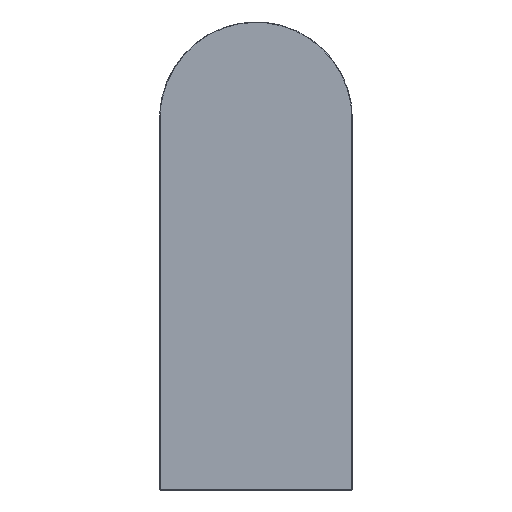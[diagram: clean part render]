
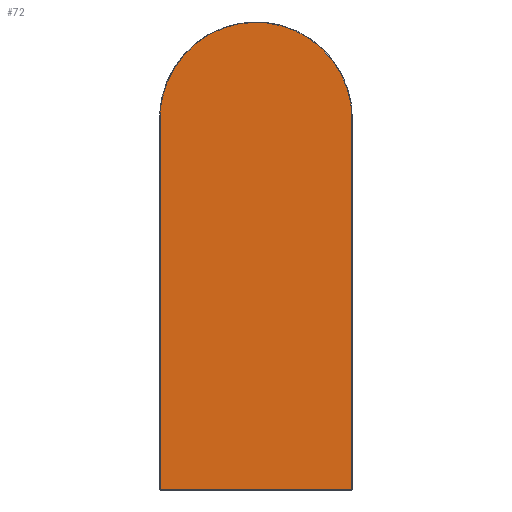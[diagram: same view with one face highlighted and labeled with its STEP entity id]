
A CAD part, front view. The second image highlights one B-rep face of the part: STEP entity #72.
In plain terms, the highlighted planar face has unit normal (0, -1, 0).
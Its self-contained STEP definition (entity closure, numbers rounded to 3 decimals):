
#31=(
BOUNDED_CURVE()
B_SPLINE_CURVE(2,(#996,#997,#998,#999,#1000),.UNSPECIFIED.,.F.,.F.)
B_SPLINE_CURVE_WITH_KNOTS((3,2,3),(0.,547.422,
1094.845),.UNSPECIFIED.)
CURVE()
GEOMETRIC_REPRESENTATION_ITEM()
RATIONAL_B_SPLINE_CURVE((1.,0.707,1.,0.707,1.))
REPRESENTATION_ITEM('')
);
#72=ADVANCED_FACE('',(#113),#484,.T.);
#113=FACE_OUTER_BOUND('',#154,.T.);
#154=EDGE_LOOP('',(#282,#283,#284,#285));
#282=ORIENTED_EDGE('',*,*,#385,.T.);
#283=ORIENTED_EDGE('',*,*,#387,.T.);
#284=ORIENTED_EDGE('',*,*,#394,.T.);
#285=ORIENTED_EDGE('',*,*,#386,.T.);
#385=EDGE_CURVE('',#455,#456,#575,.T.);
#386=EDGE_CURVE('',#457,#455,#576,.T.);
#387=EDGE_CURVE('',#456,#458,#577,.T.);
#394=EDGE_CURVE('',#458,#457,#31,.T.);
#455=VERTEX_POINT('',#946);
#456=VERTEX_POINT('',#947);
#457=VERTEX_POINT('',#948);
#458=VERTEX_POINT('',#949);
#484=PLANE('',#640);
#575=B_SPLINE_CURVE_WITH_KNOTS('',1,(#969,#970),.UNSPECIFIED.,.F.,.F.,(2,
2),(1.5,698.5),.UNSPECIFIED.);
#576=B_SPLINE_CURVE_WITH_KNOTS('',1,(#971,#972),.UNSPECIFIED.,.F.,.F.,(2,
2),(0.,1348.5),.UNSPECIFIED.);
#577=B_SPLINE_CURVE_WITH_KNOTS('',1,(#973,#974),.UNSPECIFIED.,.F.,.F.,(2,
2),(1.5,1350.),.UNSPECIFIED.);
#640=AXIS2_PLACEMENT_3D('',#896,#677,$);
#677=DIRECTION('',(0.,-1.,0.));
#896=CARTESIAN_POINT('',(6659.309,482.003,-695.529));
#946=CARTESIAN_POINT('',(6748.309,482.003,-481.529));
#947=CARTESIAN_POINT('',(7445.309,482.003,-481.529));
#948=CARTESIAN_POINT('',(6748.309,482.003,866.971));
#949=CARTESIAN_POINT('',(7445.309,482.003,866.971));
#969=CARTESIAN_POINT('',(6748.309,482.003,-481.529));
#970=CARTESIAN_POINT('',(7445.309,482.003,-481.529));
#971=CARTESIAN_POINT('',(6748.309,482.003,866.971));
#972=CARTESIAN_POINT('',(6748.309,482.003,-481.529));
#973=CARTESIAN_POINT('',(7445.309,482.003,-481.529));
#974=CARTESIAN_POINT('',(7445.309,482.003,866.971));
#996=CARTESIAN_POINT('',(7445.309,482.003,866.971));
#997=CARTESIAN_POINT('',(7445.309,482.003,1215.471));
#998=CARTESIAN_POINT('',(7096.809,482.003,1215.471));
#999=CARTESIAN_POINT('',(6748.309,482.003,1215.471));
#1000=CARTESIAN_POINT('',(6748.309,482.003,866.971));
